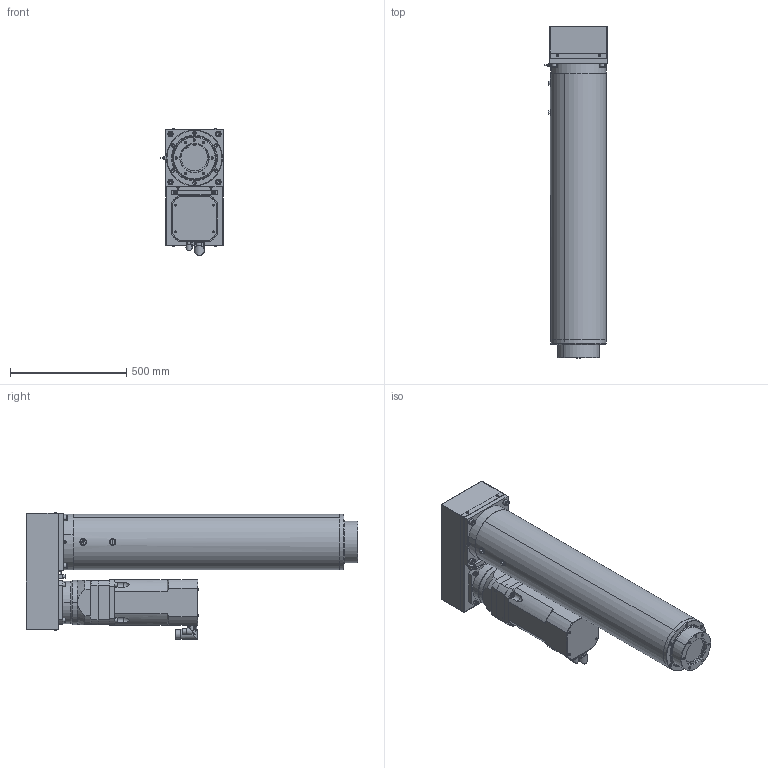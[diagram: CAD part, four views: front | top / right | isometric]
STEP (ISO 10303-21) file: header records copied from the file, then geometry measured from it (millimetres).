
FILE_DESCRIPTION (( 'STEP AP203' ), '1' );
FILE_NAME ('LN5P2000-075-010HG.STEP', '2018-01-30T14:13:37', ( '' ), ( '' ), 'SwSTEP 2.0', 'SolidWorks 2016', '' );
FILE_SCHEMA (( 'CONFIG_CONTROL_DESIGN' ));
Length unit declared in the file: millimetre
Products named in the file (1): LN5P2000-075-010HG
Bounding box: 267.25 x 1426.5 x 546.75 mm (x, y, z)
Surface area: 4750130 mm2 (no closed solid volume)
Topology: 0 solids, 49 shells, 1615 faces, 3770 edges, 2276 vertices
Faces by surface type: plane 683, cylinder 602, cone 258, torus 62, bspline 10
Entity records: 46939 total; most frequent: CARTESIAN_POINT 9748, DIRECTION 8213, ORIENTED_EDGE 7212, EDGE_CURVE 3612, AXIS2_PLACEMENT_3D 3145, VERTEX_POINT 2276, EDGE_LOOP 1932, LINE 1923
